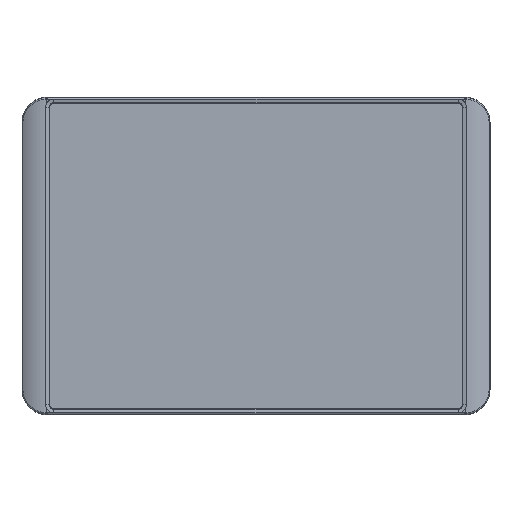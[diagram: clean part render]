
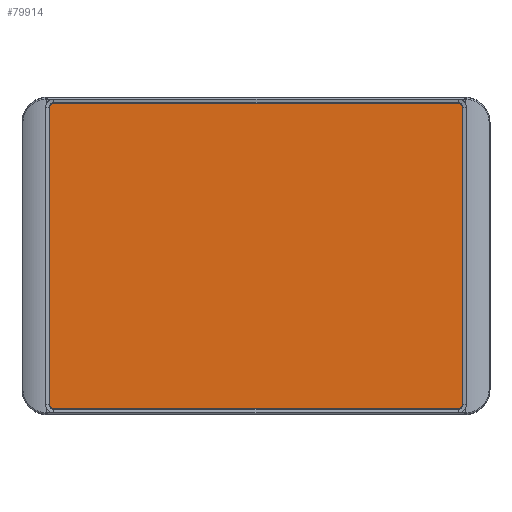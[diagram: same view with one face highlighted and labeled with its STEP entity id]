
A CAD part, top view. The second image highlights one B-rep face of the part: STEP entity #79914.
In plain terms, the highlighted planar face has unit normal (0, 0, 1).
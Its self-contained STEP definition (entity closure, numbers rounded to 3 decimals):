
#3874 = VERTEX_POINT ( 'NONE', #101760 ) ;
#7901 = EDGE_CURVE ( 'NONE', #127498, #33905, #28267, .T. ) ;
#10070 = CARTESIAN_POINT ( 'NONE',  ( 98.75, -71.225, 6.7 ) ) ;
#10294 = DIRECTION ( 'NONE',  ( 0., 0., 1. ) ) ;
#13268 = DIRECTION ( 'NONE',  ( 0., 0., 1. ) ) ;
#15994 = LINE ( 'NONE', #82332, #65765 ) ;
#17652 = DIRECTION ( 'NONE',  ( 0., 0., 1. ) ) ;
#19329 = ORIENTED_EDGE ( 'NONE', *, *, #49300, .T. ) ;
#19568 = CARTESIAN_POINT ( 'NONE',  ( -96.9, 73.075, 6.7 ) ) ;
#21824 = CIRCLE ( 'NONE', #32115, 1.85 ) ;
#22675 = CARTESIAN_POINT ( 'NONE',  ( 98.75, 73.075, 6.7 ) ) ;
#23430 = ORIENTED_EDGE ( 'NONE', *, *, #24182, .T. ) ;
#24182 = EDGE_CURVE ( 'NONE', #3874, #127498, #54292, .T. ) ;
#28267 = LINE ( 'NONE', #70908, #104670 ) ;
#29159 = DIRECTION ( 'NONE',  ( 1., 0., 0. ) ) ;
#32115 = AXIS2_PLACEMENT_3D ( 'NONE', #69892, #10294, #79968 ) ;
#33817 = VECTOR ( 'NONE', #125392, 1000. ) ;
#33905 = VERTEX_POINT ( 'NONE', #119378 ) ;
#38029 = ORIENTED_EDGE ( 'NONE', *, *, #83607, .T. ) ;
#38606 = EDGE_CURVE ( 'NONE', #51340, #120319, #21824, .T. ) ;
#39136 = VECTOR ( 'NONE', #72311, 1000. ) ;
#42467 = AXIS2_PLACEMENT_3D ( 'NONE', #78867, #88893, #29159 ) ;
#43279 = CARTESIAN_POINT ( 'NONE',  ( 96.9, 73.075, 6.7 ) ) ;
#45700 = CARTESIAN_POINT ( 'NONE',  ( 96.9, -71.225, 6.7 ) ) ;
#49300 = EDGE_CURVE ( 'NONE', #120319, #101843, #15994, .T. ) ;
#51340 = VERTEX_POINT ( 'NONE', #77996 ) ;
#52978 = EDGE_LOOP ( 'NONE', ( #105196, #89080, #125423, #84863, #19329, #38029, #60654, #23430 ) ) ;
#54292 = CIRCLE ( 'NONE', #62421, 1.85 ) ;
#55725 = DIRECTION ( 'NONE',  ( 1., 0., 0. ) ) ;
#56058 = FACE_OUTER_BOUND ( 'NONE', #52978, .T. ) ;
#60654 = ORIENTED_EDGE ( 'NONE', *, *, #105964, .T. ) ;
#62421 = AXIS2_PLACEMENT_3D ( 'NONE', #77291, #17652, #87334 ) ;
#65765 = VECTOR ( 'NONE', #92363, 1000. ) ;
#67968 = VERTEX_POINT ( 'NONE', #10070 ) ;
#68361 = PLANE ( 'NONE',  #42467 ) ;
#69892 = CARTESIAN_POINT ( 'NONE',  ( 96.9, 71.225, 6.7 ) ) ;
#70908 = CARTESIAN_POINT ( 'NONE',  ( -98.75, -73.075, 6.7 ) ) ;
#72311 = DIRECTION ( 'NONE',  ( 0., 1., 0. ) ) ;
#72860 = CARTESIAN_POINT ( 'NONE',  ( -96.9, 71.225, 6.7 ) ) ;
#77099 = AXIS2_PLACEMENT_3D ( 'NONE', #72860, #13268, #82880 ) ;
#77291 = CARTESIAN_POINT ( 'NONE',  ( -96.9, -71.225, 6.7 ) ) ;
#77996 = CARTESIAN_POINT ( 'NONE',  ( 98.75, 71.225, 6.7 ) ) ;
#78867 = CARTESIAN_POINT ( 'NONE',  ( 76.95, 45.16, 6.7 ) ) ;
#79914 = ADVANCED_FACE ( 'NONE', ( #56058 ), #68361, .T. ) ;
#79968 = DIRECTION ( 'NONE',  ( 1., 0., 0. ) ) ;
#81701 = CARTESIAN_POINT ( 'NONE',  ( -98.75, 71.225, 6.7 ) ) ;
#82332 = CARTESIAN_POINT ( 'NONE',  ( -98.75, 73.075, 6.7 ) ) ;
#82880 = DIRECTION ( 'NONE',  ( 1., 0., 0. ) ) ;
#83607 = EDGE_CURVE ( 'NONE', #101843, #106280, #118301, .T. ) ;
#84863 = ORIENTED_EDGE ( 'NONE', *, *, #38606, .T. ) ;
#87334 = DIRECTION ( 'NONE',  ( 1., 0., 0. ) ) ;
#88893 = DIRECTION ( 'NONE',  ( 0., 0., 1. ) ) ;
#89080 = ORIENTED_EDGE ( 'NONE', *, *, #114135, .T. ) ;
#89711 = EDGE_CURVE ( 'NONE', #67968, #51340, #112450, .T. ) ;
#91026 = DIRECTION ( 'NONE',  ( 1., 0., 0. ) ) ;
#92363 = DIRECTION ( 'NONE',  ( -1., 0., 0. ) ) ;
#95539 = AXIS2_PLACEMENT_3D ( 'NONE', #45700, #115521, #55725 ) ;
#101361 = CIRCLE ( 'NONE', #95539, 1.85 ) ;
#101760 = CARTESIAN_POINT ( 'NONE',  ( -98.75, -71.225, 6.7 ) ) ;
#101843 = VERTEX_POINT ( 'NONE', #19568 ) ;
#104670 = VECTOR ( 'NONE', #91026, 1000. ) ;
#105196 = ORIENTED_EDGE ( 'NONE', *, *, #7901, .T. ) ;
#105964 = EDGE_CURVE ( 'NONE', #106280, #3874, #107146, .T. ) ;
#106280 = VERTEX_POINT ( 'NONE', #81701 ) ;
#107146 = LINE ( 'NONE', #115812, #33817 ) ;
#112450 = LINE ( 'NONE', #22675, #39136 ) ;
#114135 = EDGE_CURVE ( 'NONE', #33905, #67968, #101361, .T. ) ;
#115521 = DIRECTION ( 'NONE',  ( 0., 0., 1. ) ) ;
#115812 = CARTESIAN_POINT ( 'NONE',  ( -98.75, 73.075, 6.7 ) ) ;
#118301 = CIRCLE ( 'NONE', #77099, 1.85 ) ;
#119378 = CARTESIAN_POINT ( 'NONE',  ( 96.9, -73.075, 6.7 ) ) ;
#120319 = VERTEX_POINT ( 'NONE', #43279 ) ;
#125392 = DIRECTION ( 'NONE',  ( 0., -1., 0. ) ) ;
#125423 = ORIENTED_EDGE ( 'NONE', *, *, #89711, .T. ) ;
#127498 = VERTEX_POINT ( 'NONE', #128933 ) ;
#128933 = CARTESIAN_POINT ( 'NONE',  ( -96.9, -73.075, 6.7 ) ) ;
